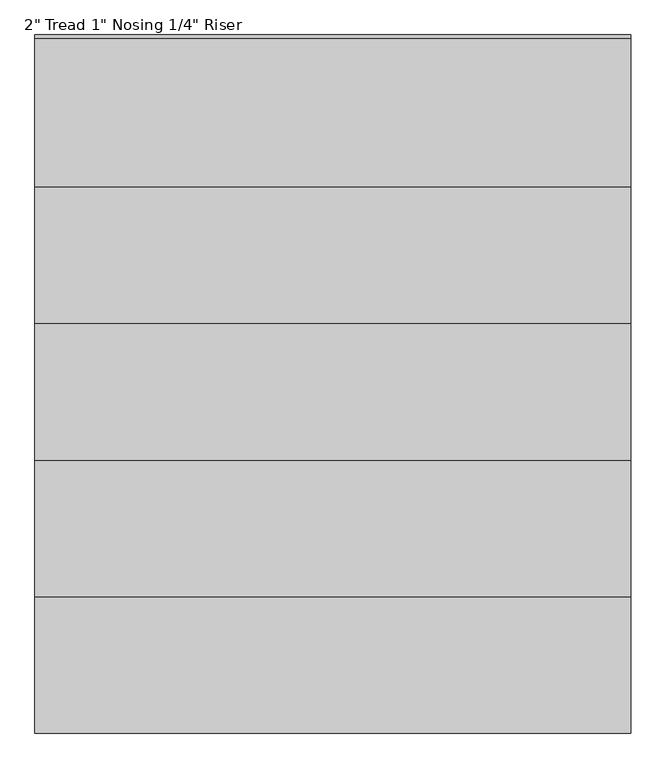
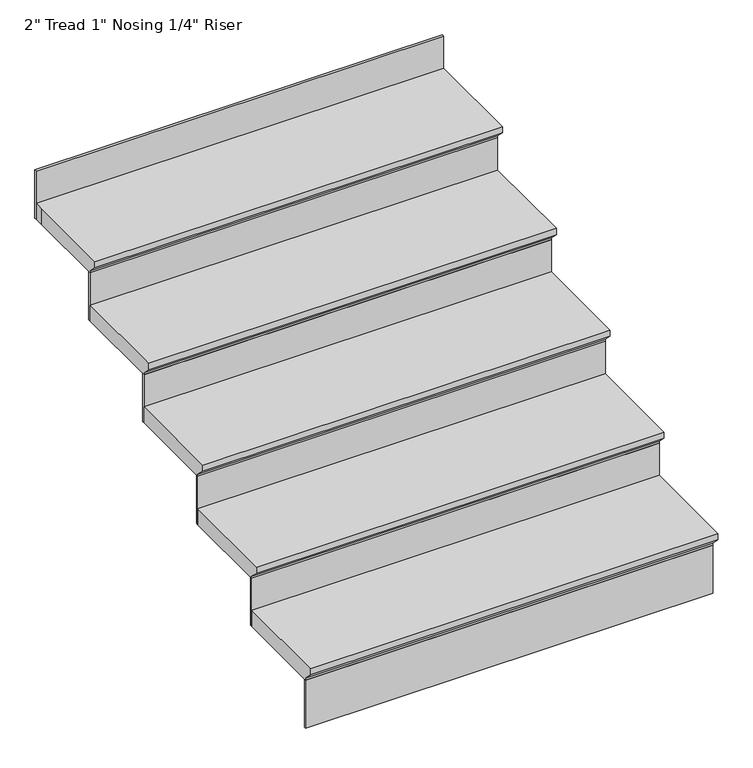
"""IFC4 building model written with IfcOpenShell, lengths in millimetres: stair flight geometry."""

from ifc_helpers import new_model, si_unit, origin, place, context, project, spatial, faceted_brep, source, transform, mapped, element, save


def stair_flight_28b25a8f(model_context):
    return source(origin(), model_context, "Body", "Brep", [
        faceted_brep([(-17871.7273699, -13660.6253362, 6534.15), (-17871.7273699, -13660.6253362, 6553.2), (-19090.9273699, -13660.6253362, 6553.2), (-19090.9273699, -13660.6253362, 6534.15), (-17871.7273699, -13635.2253362, 6508.75), (-19090.9273699, -13635.2253362, 6508.75), (-17871.7273699, -13355.8253362, 6553.2), (-19090.9273699, -13355.8253362, 6553.2), (-19090.9273699, -13635.2253362, 6502.4), (-19090.9273699, -13355.8253362, 6502.4), (-17871.7273699, -13355.8253362, 6502.4), (-17871.7273699, -13635.2253362, 6502.4)], [[[0, 1, 2, 3]], [[4, 0, 3, 5]], [[2, 1, 6, 7]], [[8, 9, 10, 11]], [[2, 7, 9, 8, 5, 3]], [[8, 11, 4, 5]], [[6, 1, 0, 4, 11, 10]], [[7, 6, 10, 9]]]),
        faceted_brep([(-17871.7273699, -13635.2253362, 6502.4), (-17871.7273699, -13635.2253362, 6350.0), (-17871.7273699, -13628.8753362, 6350.0), (-17871.7273699, -13628.8753362, 6502.4), (-19090.9273699, -13635.2253362, 6502.4), (-19090.9273699, -13628.8753362, 6502.4), (-19090.9273699, -13628.8753362, 6350.0), (-19090.9273699, -13635.2253362, 6350.0)], [[[0, 1, 2, 3]], [[4, 5, 6, 7]], [[1, 0, 4, 7]], [[2, 1, 7, 6]], [[3, 2, 6, 5]], [[0, 3, 5, 4]]]),
        faceted_brep([(-17871.7273699, -13355.8253362, 6654.8), (-17871.7273699, -13355.8253362, 6502.4), (-17871.7273699, -13349.4753362, 6502.4), (-17871.7273699, -13349.4753362, 6654.8), (-19090.9273699, -13355.8253362, 6654.8), (-19090.9273699, -13349.4753362, 6654.8), (-19090.9273699, -13349.4753362, 6502.4), (-19090.9273699, -13355.8253362, 6502.4)], [[[0, 1, 2, 3]], [[4, 5, 6, 7]], [[1, 0, 4, 7]], [[2, 1, 7, 6]], [[3, 2, 6, 5]], [[0, 3, 5, 4]]]),
        faceted_brep([(-19090.9273699, -13381.2253362, 6705.6), (-17871.7273699, -13381.2253362, 6705.6), (-17871.7273699, -13076.4253362, 6705.6), (-19090.9273699, -13076.4253362, 6705.6), (-19090.9273699, -13355.8253362, 6654.8), (-19090.9273699, -13076.4253362, 6654.8), (-17871.7273699, -13076.4253362, 6654.8), (-17871.7273699, -13355.8253362, 6654.8), (-19090.9273699, -13355.8253362, 6661.15), (-19090.9273699, -13381.2253362, 6686.55), (-17871.7273699, -13355.8253362, 6661.15), (-17871.7273699, -13381.2253362, 6686.55)], [[[0, 1, 2, 3]], [[4, 5, 6, 7]], [[0, 3, 5, 4, 8, 9]], [[4, 7, 10, 8]], [[2, 1, 11, 10, 7, 6]], [[3, 2, 6, 5]], [[11, 1, 0, 9]], [[10, 11, 9, 8]]]),
        faceted_brep([(-17871.7273699, -13076.4253362, 6807.2), (-17871.7273699, -13076.4253362, 6654.8), (-17871.7273699, -13070.0753362, 6654.8), (-17871.7273699, -13070.0753362, 6807.2), (-19090.9273699, -13076.4253362, 6807.2), (-19090.9273699, -13070.0753362, 6807.2), (-19090.9273699, -13070.0753362, 6654.8), (-19090.9273699, -13076.4253362, 6654.8)], [[[0, 1, 2, 3]], [[4, 5, 6, 7]], [[1, 0, 4, 7]], [[2, 1, 7, 6]], [[3, 2, 6, 5]], [[0, 3, 5, 4]]]),
        faceted_brep([(-19090.9273699, -13101.8253362, 6858.0), (-17871.7273699, -13101.8253362, 6858.0), (-17871.7273699, -12797.0253362, 6858.0), (-19090.9273699, -12797.0253362, 6858.0), (-19090.9273699, -13076.4253362, 6807.2), (-19090.9273699, -12797.0253362, 6807.2), (-17871.7273699, -12797.0253362, 6807.2), (-17871.7273699, -13076.4253362, 6807.2), (-19090.9273699, -13076.4253362, 6813.55), (-19090.9273699, -13101.8253362, 6838.95), (-17871.7273699, -13076.4253362, 6813.55), (-17871.7273699, -13101.8253362, 6838.95)], [[[0, 1, 2, 3]], [[4, 5, 6, 7]], [[0, 3, 5, 4, 8, 9]], [[4, 7, 10, 8]], [[2, 1, 11, 10, 7, 6]], [[3, 2, 6, 5]], [[11, 1, 0, 9]], [[10, 11, 9, 8]]]),
        faceted_brep([(-17871.7273699, -12797.0253362, 6959.6), (-17871.7273699, -12797.0253362, 6807.2), (-17871.7273699, -12790.6753362, 6807.2), (-17871.7273699, -12790.6753362, 6959.6), (-19090.9273699, -12797.0253362, 6959.6), (-19090.9273699, -12790.6753362, 6959.6), (-19090.9273699, -12790.6753362, 6807.2), (-19090.9273699, -12797.0253362, 6807.2)], [[[0, 1, 2, 3]], [[4, 5, 6, 7]], [[1, 0, 4, 7]], [[2, 1, 7, 6]], [[3, 2, 6, 5]], [[0, 3, 5, 4]]]),
        faceted_brep([(-19090.9273699, -12822.4253362, 7010.4), (-17871.7273699, -12822.4253362, 7010.4), (-17871.7273699, -12517.6253362, 7010.4), (-19090.9273699, -12517.6253362, 7010.4), (-19090.9273699, -12797.0253362, 6959.6), (-19090.9273699, -12517.6253362, 6959.6), (-17871.7273699, -12517.6253362, 6959.6), (-17871.7273699, -12797.0253362, 6959.6), (-19090.9273699, -12797.0253362, 6965.95), (-19090.9273699, -12822.4253362, 6991.35), (-17871.7273699, -12797.0253362, 6965.95), (-17871.7273699, -12822.4253362, 6991.35)], [[[0, 1, 2, 3]], [[4, 5, 6, 7]], [[0, 3, 5, 4, 8, 9]], [[4, 7, 10, 8]], [[2, 1, 11, 10, 7, 6]], [[3, 2, 6, 5]], [[11, 1, 0, 9]], [[10, 11, 9, 8]]]),
        faceted_brep([(-17871.7273699, -12238.2253362, 7264.4), (-17871.7273699, -12238.2253362, 7112.0), (-17871.7273699, -12231.8753362, 7112.0), (-17871.7273699, -12231.8753362, 7264.4), (-19090.9273699, -12238.2253362, 7264.4), (-19090.9273699, -12231.8753362, 7264.4), (-19090.9273699, -12231.8753362, 7112.0), (-19090.9273699, -12238.2253362, 7112.0)], [[[0, 1, 2, 3]], [[4, 5, 6, 7]], [[1, 0, 4, 7]], [[2, 1, 7, 6]], [[3, 2, 6, 5]], [[0, 3, 5, 4]]]),
        faceted_brep([(-17871.7273699, -12517.6253362, 7112.0), (-17871.7273699, -12517.6253362, 6959.6), (-17871.7273699, -12511.2753362, 6959.6), (-17871.7273699, -12511.2753362, 7112.0), (-19090.9273699, -12517.6253362, 7112.0), (-19090.9273699, -12511.2753362, 7112.0), (-19090.9273699, -12511.2753362, 6959.6), (-19090.9273699, -12517.6253362, 6959.6)], [[[0, 1, 2, 3]], [[4, 5, 6, 7]], [[1, 0, 4, 7]], [[2, 1, 7, 6]], [[3, 2, 6, 5]], [[0, 3, 5, 4]]]),
        faceted_brep([(-19090.9273699, -12238.2253362, 7162.8), (-19090.9273699, -12263.6253362, 7162.8), (-19090.9273699, -12543.0253362, 7162.8), (-17871.7273699, -12543.0253362, 7162.8), (-17871.7273699, -12263.6253362, 7162.8), (-17871.7273699, -12238.2253362, 7162.8), (-19090.9273699, -12263.6253362, 7112.0), (-19090.9273699, -12238.2253362, 7112.0), (-17871.7273699, -12238.2253362, 7112.0), (-17871.7273699, -12263.6253362, 7112.0), (-17871.7273699, -12517.6253362, 7112.0), (-19090.9273699, -12517.6253362, 7112.0), (-19090.9273699, -12517.6253362, 7118.35), (-19090.9273699, -12543.0253362, 7143.75), (-17871.7273699, -12517.6253362, 7118.35), (-17871.7273699, -12543.0253362, 7143.75)], [[[0, 1, 2, 3, 4, 5]], [[6, 7, 8, 9, 10, 11]], [[1, 0, 7, 6]], [[2, 1, 6, 11, 12, 13]], [[11, 10, 14, 12]], [[4, 3, 15, 14, 10, 9]], [[5, 4, 9, 8]], [[0, 5, 8, 7]], [[15, 3, 2, 13]], [[14, 15, 13, 12]]]),
    ])


if __name__ == "__main__":
    model = new_model("IFC4")
    model_context = context("Model", 3, world=origin())
    ifc_project = project(units=[si_unit("LENGTHUNIT", "METRE", prefix="MILLI")], contexts=[model_context])
    site = spatial("IfcSite", under=ifc_project)
    building = spatial("IfcBuilding", under=site)
    placement = place(None, origin())
    stair_flight_shape = stair_flight_28b25a8f(model_context)
    element("IfcStairFlight", 1, ObjectType="2\" Tread 1\" Nosing 1/4\" Riser", at=placement, inside=building, context=model_context, shape_type="MappedRepresentation", body=[
        mapped(stair_flight_shape, transform((0.0, 0.0, 0.0), x_axis=(1.0, 0.0, 0.0), y_axis=(0.0, 1.0, 0.0), z_axis=(0.0, 0.0, 1.0))),
    ])
    save(model, "model.ifc")
